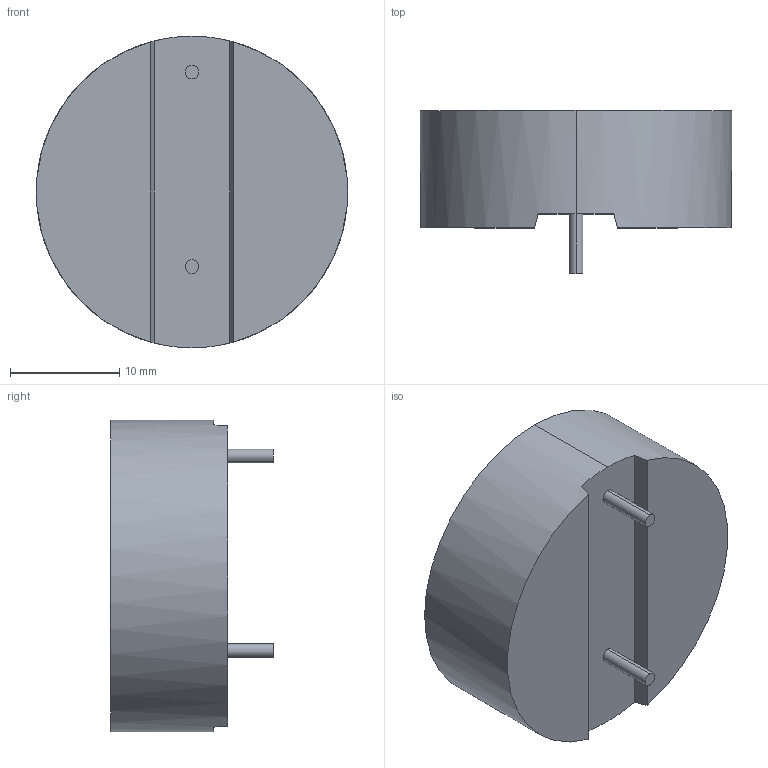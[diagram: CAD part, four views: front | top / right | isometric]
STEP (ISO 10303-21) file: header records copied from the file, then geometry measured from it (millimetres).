
FILE_DESCRIPTION (( 'STEP AP214' ), '1' );
FILE_NAME ('IHTH-1125KZ-5A 33uH.STEP', '2025-03-14T18:39:14', ( '' ), ( '' ), 'SwSTEP 2.0', 'SolidWorks 2024', '' );
FILE_SCHEMA (( 'AUTOMOTIVE_DESIGN' ));
Length unit declared in the file: inch
Products named in the file (1): IHTH-1125KZ-5A 33uH
Bounding box: 28.57 x 14.94 x 28.57 mm (x, y, z)
Volume: 6642.5 mm3; surface area: 2329.4 mm2
Topology: 1 solids, 1 shells, 200 faces, 528 edges, 352 vertices
Faces by surface type: plane 125, bspline 65, cylinder 10
Entity records: 9817 total; most frequent: CARTESIAN_POINT 5262, ORIENTED_EDGE 1056, DIRECTION 690, EDGE_CURVE 528, VECTOR 370, LINE 370, VERTEX_POINT 352, EDGE_LOOP 222
